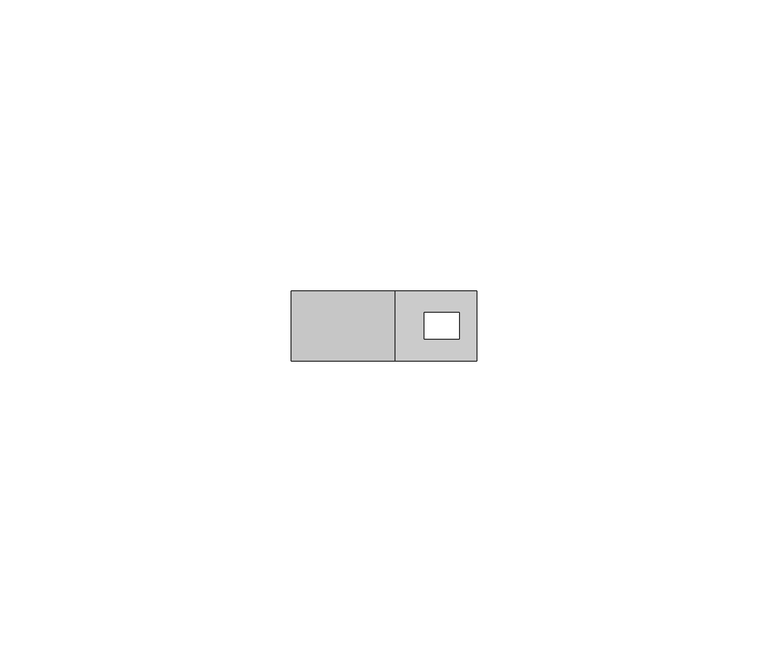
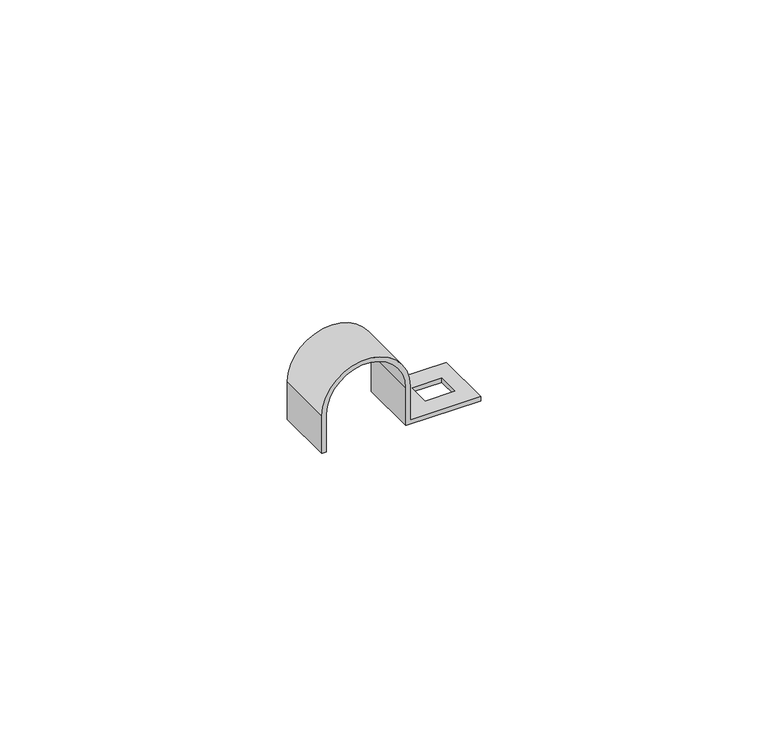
"""IFC4 building model written with IfcOpenShell, lengths in millimetres: cable carrier fitting geometry."""

from ifc_helpers import new_model, si_unit, frame, origin, place, context, project, spatial, polyline, circle_curve, source, transform, mapped, element, save
from ifc_brep_helpers import plane_surface, cylinder_surface, revolved_surface, advanced_brep


def cable_carrier_fitting_0c90fa16(model_context):
    return source(origin(), model_context, "Body", "AdvancedBrep", [
        advanced_brep(
        [(23.0, -6.0, 0.0), (23.0, -6.0, 0.9), (8.9, -6.0, 0.9), (8.9, -6.0, 8.0), (-8.9, -6.0, 8.0), (-8.9, -6.0, 0.0), (-8.0, -6.0, 0.0), (-8.0, -6.0, 8.0), (8.0, -6.0, 8.0), (8.0, -6.0, 0.0), (23.0, 6.0, 0.0), (8.0, 6.0, 0.0), (8.0, 6.0, 8.0), (-8.0, 6.0, 8.0), (-8.0, 6.0, 0.0), (-8.9, 6.0, 0.0), (-8.9, 6.0, 8.0), (8.9, 6.0, 8.0), (8.9, 6.0, 0.9), (23.0, 6.0, 0.9), (20.0, -2.25, 0.9), (14.0, -2.25, 0.9), (14.0, 2.25, 0.9), (20.0, 2.25, 0.9), (14.0, -2.25, 0.0), (20.0, -2.25, 0.0), (20.0, 2.25, 0.0), (14.0, 2.25, 0.0)],
        [
            (0, 1),
            (1, 2),
            (2, 3),
            (3, 4, circle_curve(frame((0.0, -6.0, 8.0), z_axis=(0.0, -1.0, 0.0), x_axis=(1.0, 0.0, 0.0)), 8.9)),
            (4, 5),
            (5, 6),
            (6, 7),
            (7, 8, circle_curve(frame((0.0, -6.0, 8.0), z_axis=(0.0, 1.0, 0.0), x_axis=(1.0, 0.0, 0.0)), 8.0)),
            (8, 9),
            (9, 0),
            (10, 11),
            (11, 12),
            (12, 13, circle_curve(frame((0.0, 6.0, 8.0), z_axis=(0.0, -1.0, 0.0), x_axis=(1.0, 0.0, 0.0)), 8.0)),
            (13, 14),
            (14, 15),
            (15, 16),
            (16, 17, circle_curve(frame((0.0, 6.0, 8.0), z_axis=(0.0, 1.0, 0.0), x_axis=(1.0, 0.0, 0.0)), 8.9)),
            (17, 18),
            (18, 19),
            (19, 10),
            (0, 10),
            (19, 1),
            (18, 2),
            (20, 21),
            (21, 22),
            (22, 23),
            (23, 20),
            (17, 3),
            (16, 4),
            (15, 5),
            (14, 6),
            (13, 7),
            (12, 8),
            (11, 9),
            (24, 25),
            (25, 26),
            (26, 27),
            (27, 24),
            (24, 21),
            (20, 25),
            (23, 26),
            (22, 27),
        ],
        [
            plane_surface(frame((23.0, -6.0, 0.9), z_axis=(0.0, -1.0, 0.0), x_axis=(0.0, 0.0, 1.0))),
            plane_surface(frame((23.0, 6.0, 0.9), z_axis=(0.0, 1.0, 0.0), x_axis=(0.0, 0.0, -1.0))),
            plane_surface(frame((23.0, -6.0, 0.0), z_axis=(1.0, 0.0, 0.0), x_axis=(0.0, 1.0, 0.0))),
            plane_surface(frame((23.0, -6.0, 0.9), z_axis=(0.0, 0.0, 1.0), x_axis=(0.0, 1.0, 0.0))),
            plane_surface(frame((8.9, -6.0, 0.9), z_axis=(1.0, 0.0, 0.0), x_axis=(0.0, 1.0, 0.0))),
            cylinder_surface(frame((0.0, 6.0, 8.0), z_axis=(0.0, -1.0, 0.0), x_axis=(1.0, 0.0, 0.0)), 8.9),
            plane_surface(frame((-8.9, -6.0, 8.0), z_axis=(-1.0, 0.0, 0.0), x_axis=(0.0, 1.0, 0.0))),
            plane_surface(frame((-8.9, -6.0, 0.0), z_axis=(0.0, 0.0, -1.0), x_axis=(0.0, 1.0, 0.0))),
            plane_surface(frame((-8.0, -6.0, 0.0), z_axis=(1.0, 0.0, 0.0), x_axis=(0.0, 1.0, 0.0))),
            revolved_surface(polyline([(8.0, 6.0, 8.0), (8.0, -6.0, 8.0)]), (0.0, 6.0, 8.0), (0.0, 1.0, 0.0)),
            plane_surface(frame((8.0, -6.0, 8.0), z_axis=(-1.0, 0.0, 0.0), x_axis=(0.0, 1.0, 0.0))),
            plane_surface(frame((8.0, -6.0, 0.0), z_axis=(0.0, 0.0, -1.0), x_axis=(0.0, 1.0, 0.0))),
            plane_surface(frame((14.0, -2.25, 21.959409), z_axis=(0.0, 1.0, 0.0), x_axis=(0.0, 0.0, -1.0))),
            plane_surface(frame((20.0, -2.25, 21.959409), z_axis=(-1.0, 0.0, 0.0), x_axis=(0.0, 0.0, -1.0))),
            plane_surface(frame((20.0, 2.25, 21.959409), z_axis=(0.0, -1.0, 0.0), x_axis=(0.0, 0.0, -1.0))),
            plane_surface(frame((14.0, 2.25, 21.959409), z_axis=(1.0, 0.0, 0.0), x_axis=(0.0, 0.0, -1.0))),
        ],
        [
            (0, [[1, 2, 3, 4, 5, 6, 7, 8, 9, 10]]),
            (1, [[11, 12, 13, 14, 15, 16, 17, 18, 19, 20]]),
            (2, [[-1, 21, -20, 22]]),
            (3, [[-2, -22, -19, 23], [24, 25, 26, 27]]),
            (4, [[-3, -23, -18, 28]]),
            (5, [[-4, -28, -17, 29]]),
            (6, [[-5, -29, -16, 30]]),
            (7, [[-6, -30, -15, 31]]),
            (8, [[-7, -31, -14, 32]]),
            (9, [[-8, -32, -13, 33]]),
            (10, [[-9, -33, -12, 34]]),
            (11, [[-10, -34, -11, -21], [35, 36, 37, 38]]),
            (12, [[39, -24, 40, -35]]),
            (13, [[-40, -27, 41, -36]]),
            (14, [[-41, -26, 42, -37]]),
            (15, [[-39, -38, -42, -25]]),
        ],
    ),
    ])


if __name__ == "__main__":
    model = new_model("IFC4")
    model_context = context("Model", 3, world=origin())
    ifc_project = project(units=[si_unit("LENGTHUNIT", "METRE", prefix="MILLI")], contexts=[model_context])
    site = spatial("IfcSite", under=ifc_project)
    building = spatial("IfcBuilding", under=site)
    placement = place(None, origin())
    cable_carrier_fitting_shape = cable_carrier_fitting_0c90fa16(model_context)
    element("IfcCableCarrierFitting", 1, at=placement, inside=building, context=model_context, shape_type="MappedRepresentation", body=[
        mapped(cable_carrier_fitting_shape, transform((0.0, 0.0, 0.0), x_axis=(1.0, 0.0, 0.0), y_axis=(0.0, 1.0, 0.0), z_axis=(0.0, 0.0, 1.0))),
    ])
    save(model, "model.ifc")
